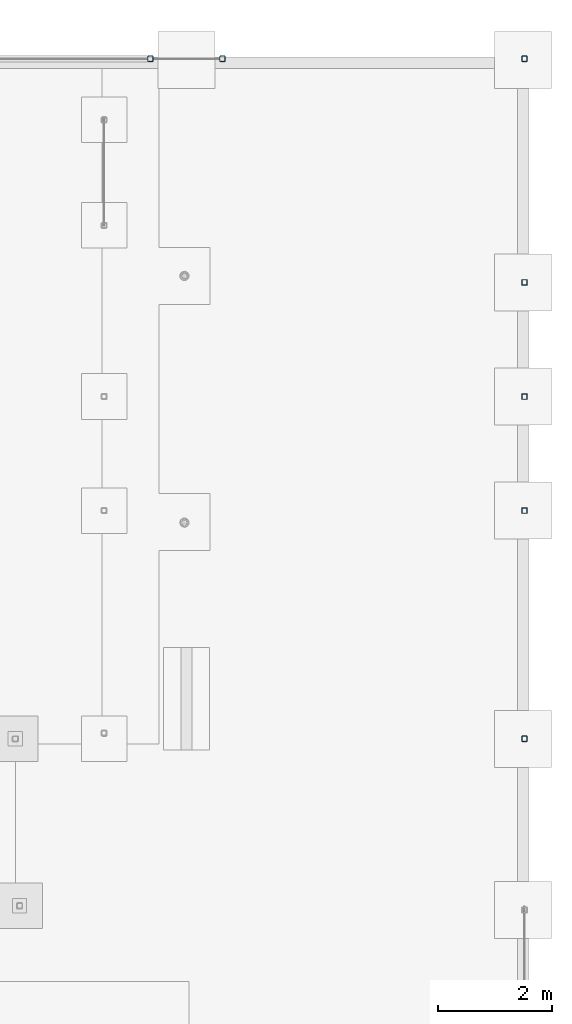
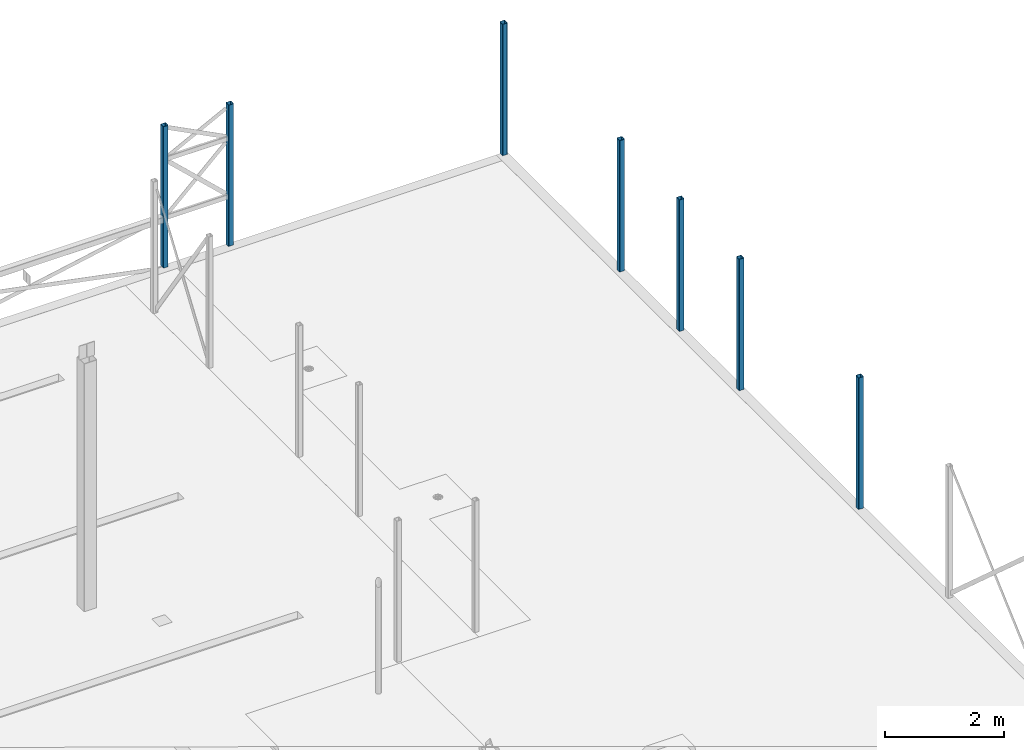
# One storey, part 6 of 18: 7 columns.
"""IFC2X3 building model written with IfcOpenShell, lengths in millimetres."""

from ifc_helpers import new_model, entity, si_unit, converted_unit, derived_unit, direction, frame, frame_2d, origin, place, context, subcontext, project, spatial, polyline, circle_curve, parameter, trimmed, segment, composite_curve, outline, extrude, source, transform, mapped, material, type_object, type_shapes, element, save


model = new_model("IFC2X3")

# Units and contexts
model_context = context("Model", 3, precision=0.01, world=origin(), true_north=direction((6.12303176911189e-17, 1.0)))
body_context = subcontext(model_context, "Body", "Model", "MODEL_VIEW")
ifc_project = project(units=[si_unit("LENGTHUNIT", "METRE", prefix="MILLI"), si_unit("AREAUNIT", "SQUARE_METRE"), si_unit("VOLUMEUNIT", "CUBIC_METRE"), converted_unit("PLANEANGLEUNIT", "DEGREE", entity("IfcRatioMeasure", 0.0174532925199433), si_unit("PLANEANGLEUNIT", "RADIAN"), dimensions=[0, 0, 0, 0, 0, 0, 0]), si_unit("MASSUNIT", "GRAM", prefix="KILO"), derived_unit("MASSDENSITYUNIT", [(si_unit("MASSUNIT", "GRAM", prefix="KILO"), 1), (si_unit("LENGTHUNIT", "METRE"), -3)]), si_unit("TIMEUNIT", "SECOND"), si_unit("FREQUENCYUNIT", "HERTZ"), si_unit("THERMODYNAMICTEMPERATUREUNIT", "DEGREE_CELSIUS"), derived_unit("THERMALTRANSMITTANCEUNIT", [(si_unit("MASSUNIT", "GRAM", prefix="KILO"), 1), (si_unit("THERMODYNAMICTEMPERATUREUNIT", "KELVIN"), -1), (si_unit("TIMEUNIT", "SECOND"), -3)]), derived_unit("VOLUMETRICFLOWRATEUNIT", [(si_unit("LENGTHUNIT", "METRE"), 3), (si_unit("TIMEUNIT", "SECOND"), -1)]), si_unit("ELECTRICCURRENTUNIT", "AMPERE"), si_unit("ELECTRICVOLTAGEUNIT", "VOLT"), si_unit("POWERUNIT", "WATT"), si_unit("FORCEUNIT", "NEWTON", prefix="KILO"), si_unit("ILLUMINANCEUNIT", "LUX"), si_unit("LUMINOUSFLUXUNIT", "LUMEN"), si_unit("LUMINOUSINTENSITYUNIT", "CANDELA"), derived_unit("USERDEFINED", [(si_unit("MASSUNIT", "GRAM", prefix="KILO"), -1), (si_unit("LENGTHUNIT", "METRE"), -2), (si_unit("TIMEUNIT", "SECOND"), 3), (si_unit("LUMINOUSFLUXUNIT", "LUMEN"), 1)]), derived_unit("LINEARVELOCITYUNIT", [(si_unit("LENGTHUNIT", "METRE"), 1), (si_unit("TIMEUNIT", "SECOND"), -1)]), si_unit("PRESSUREUNIT", "PASCAL"), derived_unit("USERDEFINED", [(si_unit("LENGTHUNIT", "METRE"), -2), (si_unit("MASSUNIT", "GRAM", prefix="KILO"), 1), (si_unit("TIMEUNIT", "SECOND"), -2)])], contexts=[model_context])

# Site, building, storey
site_placement = place(None, frame((0.0, 0.0, 101000.0)))
site = spatial("IfcSite", under=ifc_project, at=site_placement, Name="Default", CompositionType="ELEMENT")
building_placement = place(site_placement, origin())
building = spatial("IfcBuilding", under=site, at=building_placement, CompositionType="ELEMENT")
storey_placement = place(building_placement, origin())
storey = spatial("IfcBuildingStorey", under=building, at=storey_placement, Name="01", CompositionType="ELEMENT", Elevation=8.9295595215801e-10)

# Columns
ifc_material = material(Name="S355")
column_type_1 = type_object("IfcColumnType", Name="HUP 100x100x6.3", PredefinedType="COLUMN", material=ifc_material)
shared_shape_1 = source(origin(), body_context, "Body", "SweptSolid", [
    extrude(outline(composite_curve([segment(polyline([(-37.4000000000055, -50.0), (37.4000000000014, -50.0)]), True, "CONTINUOUS"), segment(trimmed(circle_curve(frame_2d((37.4000000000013, -37.3999999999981), x_axis=(-1.0, 0.0)), 12.6000000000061), [parameter(90.0000000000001)], [parameter(180.0)], True, "PARAMETER"), True, "CONTINUOUS"), segment(polyline([(50.0, -37.3999999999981), (50.0, 37.4000000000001)]), True, "CONTINUOUS"), segment(trimmed(circle_curve(frame_2d((37.4000000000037, 37.4000000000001), x_axis=(-1.0, 0.0)), 12.6000000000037), [parameter(180.0)], [parameter(270.0)], True, "PARAMETER"), True, "CONTINUOUS"), segment(polyline([(37.4000000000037, 50.0), (-37.4000000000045, 50.0)]), True, "CONTINUOUS"), segment(trimmed(circle_curve(frame_2d((-37.4000000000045, 37.4000000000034), x_axis=(-1.0, 0.0)), 12.6000000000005), [parameter(270.0)], [parameter(360.0)], True, "PARAMETER"), True, "CONTINUOUS"), segment(polyline([(-50.0, 37.4000000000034), (-50.0, -37.4000000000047)]), True, "CONTINUOUS"), segment(trimmed(circle_curve(frame_2d((-37.4000000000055, -37.4000000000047), x_axis=(-1.0, 0.0)), 12.5999999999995), [parameter(360.0)], [parameter(89.9999999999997)], True, "PARAMETER"), True, "CONTINUOUS")], self_intersect=False), holes=[composite_curve([segment(trimmed(circle_curve(frame_2d((-37.4000000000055, -37.4000000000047), x_axis=(-1.0, 0.0)), 6.2999999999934), [parameter(0.0)], [parameter(90.0)], True, "PARAMETER"), False, "CONTINUOUS"), segment(polyline([(-43.6999999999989, -37.4000000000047), (-43.6999999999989, 37.4000000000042)]), True, "CONTINUOUS"), segment(trimmed(circle_curve(frame_2d((-37.4000000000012, 37.4000000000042), x_axis=(-1.0, 0.0)), 6.29999999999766), [parameter(270.0)], [parameter(360.0)], True, "PARAMETER"), False, "CONTINUOUS"), segment(polyline([(-37.4000000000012, 43.7000000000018), (37.3999999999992, 43.7000000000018)]), True, "CONTINUOUS"), segment(trimmed(circle_curve(frame_2d((37.3999999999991, 37.3999999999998), x_axis=(-1.0, 0.0)), 6.30000000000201), [parameter(180.0)], [parameter(270.0)], True, "PARAMETER"), False, "CONTINUOUS"), segment(polyline([(43.7000000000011, 37.3999999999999), (43.7000000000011, -37.3999999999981)]), True, "CONTINUOUS"), segment(trimmed(circle_curve(frame_2d((37.4000000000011, -37.3999999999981), x_axis=(-1.0, 0.0)), 6.30000000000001), [parameter(90.0000000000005)], [parameter(180.0)], True, "PARAMETER"), False, "CONTINUOUS"), segment(polyline([(37.4000000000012, -43.6999999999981), (-37.4000000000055, -43.6999999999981)]), True, "CONTINUOUS")], self_intersect=False)]), frame((0.0, 0.0, 0.0), z_axis=(0.0, 0.0, 1.0), x_axis=(-1.0, 0.0, 0.0)), (0.0, 0.0, 1.0), 2684.99999999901),
])
type_shapes(column_type_1, [shared_shape_1])
for number, where, name in (
    (1, (23111.2644969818, 44337.9507529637, 0.0), "Søyle HUP:HUP 100x100x6.3"),
    (2, (23111.2644969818, 40417.9507529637, 0.0), "Søyle HUP:HUP 100x100x6.3"),
    (3, (23111.2644969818, 38417.9507529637, 0.0), "Søyle HUP:HUP 100x100x6.3"),
    (4, (23111.2644969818, 36417.9507529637, 0.0), "Søyle HUP:HUP 100x100x6.3"),
    (5, (23111.2644969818, 32417.9507529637, 0.0), "Søyle HUP:HUP 100x100x6.3"),
):
    element("IfcColumn", number, at=place(storey_placement, frame(where)), inside=storey, type_object=column_type_1, material=ifc_material, Name=name, ObjectType="HUP 100x100x6.3", context=body_context, shape_type="MappedRepresentation", body=[
        mapped(shared_shape_1, transform((0.0, 0.0, 0.0), scale=1.0)),
    ])
column_type_2 = type_object("IfcColumnType", Name="HUP 100x100x6.3", PredefinedType="COLUMN", material=ifc_material)
shared_shape_2 = source(origin(), body_context, "Body", "SweptSolid", [
    extrude(outline(composite_curve([segment(polyline([(-37.4000000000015, -50.0), (37.4000000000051, -50.0)]), True, "CONTINUOUS"), segment(trimmed(circle_curve(frame_2d((37.4000000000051, -37.4000000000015), x_axis=(-1.0, 0.0)), 12.6000000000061), [parameter(90.0000000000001)], [parameter(180.0)], True, "PARAMETER"), True, "CONTINUOUS"), segment(polyline([(50.0, -37.4000000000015), (50.0, 37.4000000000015)]), True, "CONTINUOUS"), segment(trimmed(circle_curve(frame_2d((37.4000000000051, 37.4000000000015), x_axis=(-1.0, 0.0)), 12.6000000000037), [parameter(180.0)], [parameter(270.0)], True, "PARAMETER"), True, "CONTINUOUS"), segment(polyline([(37.4000000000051, 50.0), (-37.4000000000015, 50.0)]), True, "CONTINUOUS"), segment(trimmed(circle_curve(frame_2d((-37.4000000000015, 37.4000000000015), x_axis=(-1.0, 0.0)), 12.6000000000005), [parameter(270.0)], [parameter(360.0)], True, "PARAMETER"), True, "CONTINUOUS"), segment(polyline([(-50.0, 37.4000000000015), (-50.0, -37.4000000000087)]), True, "CONTINUOUS"), segment(trimmed(circle_curve(frame_2d((-37.4000000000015, -37.4000000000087), x_axis=(-1.0, 0.0)), 12.5999999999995), [parameter(360.0)], [parameter(89.9999999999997)], True, "PARAMETER"), True, "CONTINUOUS")], self_intersect=False), holes=[composite_curve([segment(trimmed(circle_curve(frame_2d((-37.4000000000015, -37.4000000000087), x_axis=(-1.0, 0.0)), 6.2999999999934), [parameter(0.0)], [parameter(90.0)], True, "PARAMETER"), False, "CONTINUOUS"), segment(polyline([(-43.6999999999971, -37.4000000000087), (-43.6999999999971, 37.4000000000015)]), True, "CONTINUOUS"), segment(trimmed(circle_curve(frame_2d((-37.3999999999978, 37.4000000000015), x_axis=(-1.0, 0.0)), 6.29999999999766), [parameter(270.0)], [parameter(360.0)], True, "PARAMETER"), False, "CONTINUOUS"), segment(polyline([(-37.3999999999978, 43.7000000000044), (37.4000000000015, 43.7000000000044)]), True, "CONTINUOUS"), segment(trimmed(circle_curve(frame_2d((37.4000000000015, 37.4000000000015), x_axis=(-1.0, 0.0)), 6.30000000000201), [parameter(180.0)], [parameter(270.0)], True, "PARAMETER"), False, "CONTINUOUS"), segment(polyline([(43.7000000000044, 37.4000000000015), (43.7000000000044, -37.4000000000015)]), True, "CONTINUOUS"), segment(trimmed(circle_curve(frame_2d((37.4000000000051, -37.4000000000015), x_axis=(-1.0, 0.0)), 6.30000000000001), [parameter(90.0000000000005)], [parameter(180.0)], True, "PARAMETER"), False, "CONTINUOUS"), segment(polyline([(37.4000000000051, -43.6999999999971), (-37.4000000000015, -43.6999999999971)]), True, "CONTINUOUS")], self_intersect=False)]), frame((16555.2902080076, 44337.9507529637, 0.0), z_axis=(0.0, 0.0, 1.0), x_axis=(-1.0, 0.0, 0.0)), (0.0, 0.0, 1.0), 2884.99999999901),
])
type_shapes(column_type_2, [shared_shape_2])
column_1_placement = place(storey_placement, origin())
element("IfcColumn", 6, at=column_1_placement, inside=storey, type_object=column_type_2, material=ifc_material, Name="Søyle HUP:HUP 100x100x6.3", ObjectType="HUP 100x100x6.3", context=body_context, shape_type="MappedRepresentation", body=[
    mapped(shared_shape_2, transform((0.0, 0.0, 0.0), scale=1.0)),
])
column_type_3 = type_object("IfcColumnType", Name="HUP 100x100x6.3", PredefinedType="COLUMN", material=ifc_material)
shared_shape_3 = source(origin(), body_context, "Body", "SweptSolid", [
    extrude(outline(composite_curve([segment(polyline([(-37.4000000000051, -50.0), (37.4000000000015, -50.0)]), True, "CONTINUOUS"), segment(trimmed(circle_curve(frame_2d((37.4000000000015, -37.4000000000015), x_axis=(-1.0, 0.0)), 12.6000000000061), [parameter(90.0000000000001)], [parameter(180.0)], True, "PARAMETER"), True, "CONTINUOUS"), segment(polyline([(50.0, -37.4000000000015), (50.0, 37.4000000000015)]), True, "CONTINUOUS"), segment(trimmed(circle_curve(frame_2d((37.4000000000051, 37.4000000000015), x_axis=(-1.0, 0.0)), 12.6000000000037), [parameter(180.0)], [parameter(270.0)], True, "PARAMETER"), True, "CONTINUOUS"), segment(polyline([(37.4000000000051, 50.0), (-37.4000000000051, 50.0)]), True, "CONTINUOUS"), segment(trimmed(circle_curve(frame_2d((-37.4000000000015, 37.4000000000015), x_axis=(-1.0, 0.0)), 12.6000000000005), [parameter(270.0)], [parameter(360.0)], True, "PARAMETER"), True, "CONTINUOUS"), segment(polyline([(-50.0, 37.4000000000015), (-50.0, -37.4000000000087)]), True, "CONTINUOUS"), segment(trimmed(circle_curve(frame_2d((-37.4000000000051, -37.4000000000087), x_axis=(-1.0, 0.0)), 12.5999999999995), [parameter(360.0)], [parameter(89.9999999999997)], True, "PARAMETER"), True, "CONTINUOUS")], self_intersect=False), holes=[composite_curve([segment(trimmed(circle_curve(frame_2d((-37.4000000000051, -37.4000000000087), x_axis=(-1.0, 0.0)), 6.2999999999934), [parameter(0.0)], [parameter(90.0)], True, "PARAMETER"), False, "CONTINUOUS"), segment(polyline([(-43.7000000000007, -37.4000000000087), (-43.7000000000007, 37.4000000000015)]), True, "CONTINUOUS"), segment(trimmed(circle_curve(frame_2d((-37.4000000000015, 37.4000000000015), x_axis=(-1.0, 0.0)), 6.29999999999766), [parameter(270.0)], [parameter(360.0)], True, "PARAMETER"), False, "CONTINUOUS"), segment(polyline([(-37.4000000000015, 43.6999999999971), (37.4000000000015, 43.6999999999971)]), True, "CONTINUOUS"), segment(trimmed(circle_curve(frame_2d((37.4000000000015, 37.4000000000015), x_axis=(-1.0, 0.0)), 6.30000000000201), [parameter(180.0)], [parameter(270.0)], True, "PARAMETER"), False, "CONTINUOUS"), segment(polyline([(43.7000000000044, 37.4000000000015), (43.7000000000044, -37.4000000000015)]), True, "CONTINUOUS"), segment(trimmed(circle_curve(frame_2d((37.4000000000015, -37.4000000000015), x_axis=(-1.0, 0.0)), 6.30000000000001), [parameter(90.0000000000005)], [parameter(180.0)], True, "PARAMETER"), False, "CONTINUOUS"), segment(polyline([(37.4000000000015, -43.6999999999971), (-37.4000000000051, -43.6999999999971)]), True, "CONTINUOUS")], self_intersect=False)]), frame((17817.2389636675, 44337.9507529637, 0.0), z_axis=(0.0, 0.0, 1.0), x_axis=(-1.0, 0.0, 0.0)), (0.0, 0.0, 1.0), 2884.99999999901),
])
type_shapes(column_type_3, [shared_shape_3])
column_2_placement = place(storey_placement, origin())
element("IfcColumn", 7, at=column_2_placement, inside=storey, type_object=column_type_3, material=ifc_material, Name="Søyle HUP:HUP 100x100x6.3", ObjectType="HUP 100x100x6.3", context=body_context, shape_type="MappedRepresentation", body=[
    mapped(shared_shape_3, transform((0.0, 0.0, 0.0), scale=1.0)),
])

save(model, "model.ifc")
